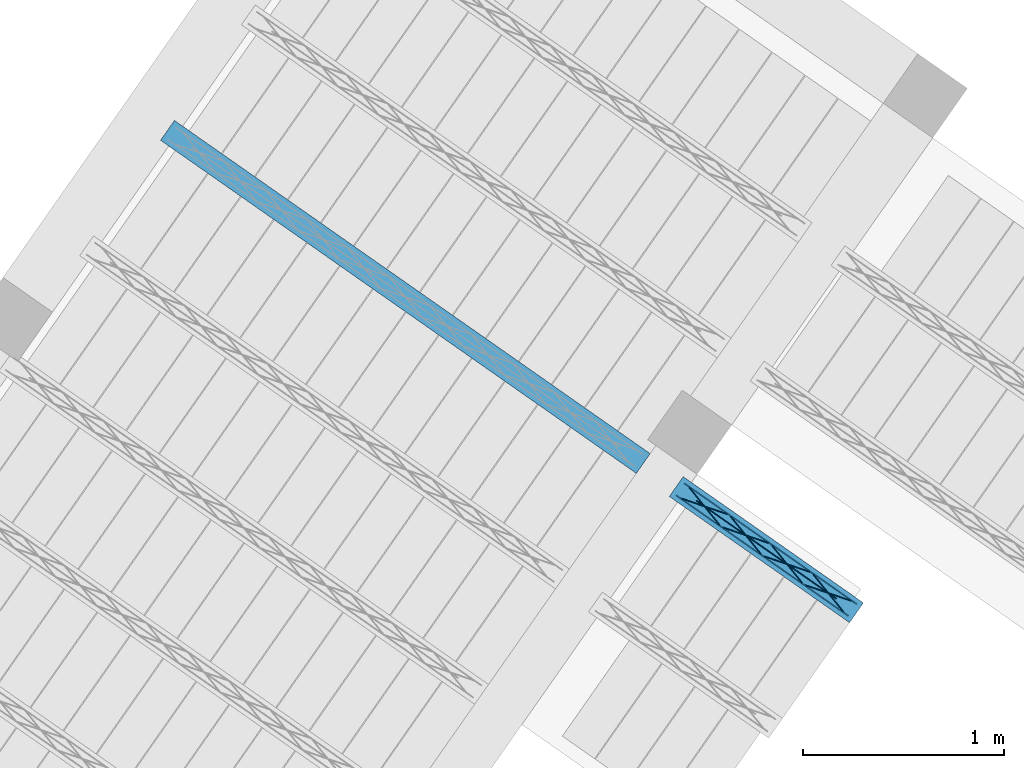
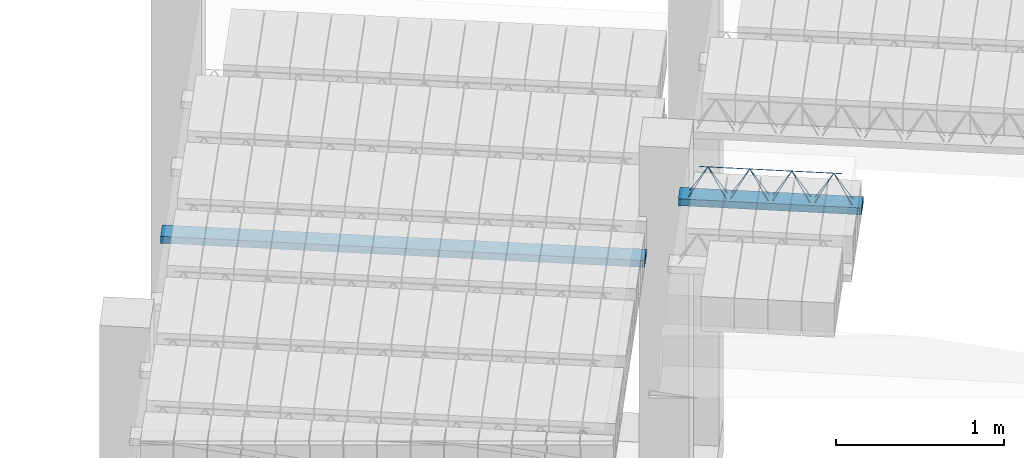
# One storey, part 36 of 80: 3 beams, 1 member.
"""IFC2X3 building model written with IfcOpenShell, lengths in metres."""

from ifc_helpers import new_model, entity, si_unit, converted_unit, derived_unit, direction, frame, frame_2d, origin, origin_2d_with_axis, place, context, subcontext, project, spatial, rectangle, circle, extrude, material, type_object, element, save


model = new_model("IFC2X3")

# Units and contexts
model_context = context("Model", 3, precision=1e-05, world=origin(), true_north=direction((6.123031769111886e-17, 1.0)))
body_context = subcontext(model_context, "Body", "Model", "MODEL_VIEW")
ifc_project = project(units=[si_unit("LENGTHUNIT", "METRE"), si_unit("AREAUNIT", "SQUARE_METRE"), si_unit("VOLUMEUNIT", "CUBIC_METRE"), converted_unit("PLANEANGLEUNIT", "DEGREE", entity("IfcPlaneAngleMeasure", 0.017453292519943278), si_unit("PLANEANGLEUNIT", "RADIAN"), dimensions=[0, 0, 0, 0, 0, 0, 0]), si_unit("MASSUNIT", "GRAM", prefix="KILO"), derived_unit("MASSDENSITYUNIT", [(si_unit("MASSUNIT", "GRAM", prefix="KILO"), 1), (si_unit("LENGTHUNIT", "METRE"), -3)]), derived_unit("IONCONCENTRATIONUNIT", [(si_unit("MASSUNIT", "GRAM", prefix="KILO"), 1), (si_unit("LENGTHUNIT", "METRE"), -3)]), derived_unit("MOMENTOFINERTIAUNIT", [(si_unit("LENGTHUNIT", "METRE"), 4)]), si_unit("TIMEUNIT", "SECOND"), si_unit("FREQUENCYUNIT", "HERTZ"), si_unit("THERMODYNAMICTEMPERATUREUNIT", "DEGREE_CELSIUS"), derived_unit("THERMALTRANSMITTANCEUNIT", [(si_unit("MASSUNIT", "GRAM", prefix="KILO"), 1), (si_unit("THERMODYNAMICTEMPERATUREUNIT", "KELVIN"), -1), (si_unit("TIMEUNIT", "SECOND"), -3)]), derived_unit("THERMALCONDUCTANCEUNIT", [(si_unit("MASSUNIT", "GRAM", prefix="KILO"), 1), (si_unit("THERMODYNAMICTEMPERATUREUNIT", "KELVIN"), -1), (si_unit("TIMEUNIT", "SECOND"), -3), (si_unit("LENGTHUNIT", "METRE"), 1)]), derived_unit("VOLUMETRICFLOWRATEUNIT", [(si_unit("LENGTHUNIT", "METRE", prefix="DECI"), 3), (si_unit("TIMEUNIT", "SECOND"), -1)]), derived_unit("MASSFLOWRATEUNIT", [(si_unit("MASSUNIT", "GRAM", prefix="KILO"), 1), (si_unit("TIMEUNIT", "SECOND"), -1)]), derived_unit("ROTATIONALFREQUENCYUNIT", [(si_unit("TIMEUNIT", "SECOND"), -1)]), si_unit("ELECTRICCURRENTUNIT", "AMPERE"), si_unit("ELECTRICVOLTAGEUNIT", "VOLT"), si_unit("POWERUNIT", "WATT"), si_unit("FORCEUNIT", "NEWTON", prefix="KILO"), si_unit("ILLUMINANCEUNIT", "LUX"), si_unit("LUMINOUSFLUXUNIT", "LUMEN"), si_unit("LUMINOUSINTENSITYUNIT", "CANDELA"), si_unit("ENERGYUNIT", "JOULE"), derived_unit("USERDEFINED", [(si_unit("MASSUNIT", "GRAM", prefix="KILO"), -1), (si_unit("LENGTHUNIT", "METRE"), -2), (si_unit("TIMEUNIT", "SECOND"), 3), (si_unit("LUMINOUSFLUXUNIT", "LUMEN"), 1)]), derived_unit("USERDEFINED", [(si_unit("MASSUNIT", "GRAM", prefix="KILO"), 1), (si_unit("TIMEUNIT", "SECOND"), -3), (si_unit("LENGTHUNIT", "METRE"), 3), (si_unit("ELECTRICCURRENTUNIT", "AMPERE"), -2)]), derived_unit("SOUNDPOWERUNIT", [(si_unit("MASSUNIT", "GRAM", prefix="KILO"), 1), (si_unit("TIMEUNIT", "SECOND"), -3), (si_unit("LENGTHUNIT", "METRE"), 2)]), derived_unit("SOUNDPRESSUREUNIT", [(si_unit("MASSUNIT", "GRAM", prefix="KILO"), 1), (si_unit("LENGTHUNIT", "METRE"), -1), (si_unit("TIMEUNIT", "SECOND"), -2)]), derived_unit("LINEARVELOCITYUNIT", [(si_unit("LENGTHUNIT", "METRE"), 1), (si_unit("TIMEUNIT", "SECOND"), -1)]), si_unit("PRESSUREUNIT", "PASCAL"), derived_unit("USERDEFINED", [(si_unit("MASSUNIT", "GRAM", prefix="KILO"), 1), (si_unit("LENGTHUNIT", "METRE"), -2), (si_unit("TIMEUNIT", "SECOND"), -2)]), derived_unit("LINEARFORCEUNIT", [(si_unit("MASSUNIT", "GRAM", prefix="KILO"), 1), (si_unit("TIMEUNIT", "SECOND"), -2)]), derived_unit("PLANARFORCEUNIT", [(si_unit("MASSUNIT", "GRAM", prefix="KILO"), 1), (si_unit("LENGTHUNIT", "METRE"), -1), (si_unit("TIMEUNIT", "SECOND"), -2)]), derived_unit("SPECIFICHEATCAPACITYUNIT", [(si_unit("THERMODYNAMICTEMPERATUREUNIT", "KELVIN"), -1), (si_unit("LENGTHUNIT", "METRE"), 2), (si_unit("TIMEUNIT", "SECOND"), -2)]), derived_unit("HEATFLUXDENSITYUNIT", [(si_unit("MASSUNIT", "GRAM", prefix="KILO"), 1), (si_unit("TIMEUNIT", "SECOND"), -3)]), derived_unit("HEATINGVALUEUNIT", [(si_unit("LENGTHUNIT", "METRE"), 2), (si_unit("TIMEUNIT", "SECOND"), -2)]), derived_unit("VAPORPERMEABILITYUNIT", [(si_unit("LENGTHUNIT", "METRE"), -1), (si_unit("TIMEUNIT", "SECOND"), 1)]), derived_unit("DYNAMICVISCOSITYUNIT", [(si_unit("MASSUNIT", "GRAM", prefix="KILO"), 1), (si_unit("TIMEUNIT", "SECOND"), -1), (si_unit("LENGTHUNIT", "METRE"), -1)]), derived_unit("THERMALEXPANSIONCOEFFICIENTUNIT", [(si_unit("THERMODYNAMICTEMPERATUREUNIT", "KELVIN"), -1)]), derived_unit("MODULUSOFELASTICITYUNIT", [(si_unit("MASSUNIT", "GRAM", prefix="KILO"), 1), (si_unit("LENGTHUNIT", "METRE"), -1), (si_unit("TIMEUNIT", "SECOND"), -2)]), derived_unit("ISOTHERMALMOISTURECAPACITYUNIT", [(si_unit("MASSUNIT", "GRAM", prefix="KILO"), -1), (si_unit("LENGTHUNIT", "METRE"), 3)]), derived_unit("MOISTUREDIFFUSIVITYUNIT", [(si_unit("TIMEUNIT", "SECOND"), -1), (si_unit("LENGTHUNIT", "METRE"), 2)]), derived_unit("MASSPERLENGTHUNIT", [(si_unit("MASSUNIT", "GRAM", prefix="KILO"), 1), (si_unit("LENGTHUNIT", "METRE"), -1)]), derived_unit("THERMALRESISTANCEUNIT", [(si_unit("MASSUNIT", "GRAM", prefix="KILO"), -1), (si_unit("TIMEUNIT", "SECOND"), 3), (si_unit("THERMODYNAMICTEMPERATUREUNIT", "KELVIN"), 1)]), derived_unit("ACCELERATIONUNIT", [(si_unit("LENGTHUNIT", "METRE"), 1), (si_unit("TIMEUNIT", "SECOND"), -2)]), derived_unit("ANGULARVELOCITYUNIT", [(si_unit("TIMEUNIT", "SECOND"), -1), (si_unit("PLANEANGLEUNIT", "RADIAN"), 1)]), derived_unit("LINEARSTIFFNESSUNIT", [(si_unit("MASSUNIT", "GRAM", prefix="KILO"), 1), (si_unit("TIMEUNIT", "SECOND"), -2)]), derived_unit("WARPINGCONSTANTUNIT", [(si_unit("LENGTHUNIT", "METRE"), 6)]), derived_unit("LINEARMOMENTUNIT", [(si_unit("MASSUNIT", "GRAM", prefix="KILO"), 1), (si_unit("LENGTHUNIT", "METRE"), 1), (si_unit("TIMEUNIT", "SECOND"), -2)]), derived_unit("TORQUEUNIT", [(si_unit("MASSUNIT", "GRAM", prefix="KILO"), 1), (si_unit("LENGTHUNIT", "METRE"), 2), (si_unit("TIMEUNIT", "SECOND"), -2)])], contexts=[model_context])

# Site, building, storey
site_placement = place(None, origin())
site = spatial("IfcSite", under=ifc_project, at=site_placement, Name="Default", CompositionType="ELEMENT")
building_placement = place(site_placement, origin())
building = spatial("IfcBuilding", under=site, at=building_placement, CompositionType="ELEMENT")
storey_placement = place(building_placement, frame((0.0, 0.0, 95.94)))
storey = spatial("IfcBuildingStorey", under=building, at=storey_placement, Name="PB", CompositionType="ELEMENT", Elevation=95.94)

# Member
member_type = type_object("IfcMemberType", Name="Celosía (Vigueta 2 - Paño 8)", PredefinedType="NOTDEFINED")
member_placement = place(storey_placement, origin())
element("IfcMember", 1, at=member_placement, inside=storey, type_object=member_type, Name="Celosía (Vigueta 2 - Paño 8)", context=body_context, shape_type="SweptSolid", body=[
    extrude(circle(Radius=0.0025, at=origin_2d_with_axis()), frame((5.762189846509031, 7.213832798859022, 3.3049999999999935), z_axis=(0.8191520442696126, -0.5735764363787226, 0.0), x_axis=(-0.5735764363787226, -0.8191520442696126, 0.0)), (0.0, 0.0, 1.0), 1.044734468),
    extrude(circle(Radius=0.0025, at=origin_2d_with_axis()), frame((6.558876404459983, 6.699934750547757, 3.5299999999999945), z_axis=(-0.8191520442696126, 0.5735764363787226, 0.0), x_axis=(-0.5735764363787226, -0.8191520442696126, 0.0)), (0.0, 0.0, 1.0), 0.8499999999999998),
    extrude(circle(Radius=0.0025, at=origin_2d_with_axis()), frame((6.59966405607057, 6.627427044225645, 3.3049999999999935), z_axis=(-0.3145304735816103, 0.389334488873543, 0.8657304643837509), x_axis=(-0.7778747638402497, -0.6284193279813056, 0.0)), (0.0, 0.0, 1.0), 0.2598961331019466),
    extrude(circle(Radius=0.0025, at=origin_2d_with_axis()), frame((6.3948760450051, 6.770821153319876, 3.3049999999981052), z_axis=(0.47343050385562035, -0.1624017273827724, 0.8657304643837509), x_axis=(-0.3244721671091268, -0.9458952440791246, 0.0)), (0.0, 0.0, 1.0), 0.25989613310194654),
    extrude(circle(Radius=0.0025, at=origin_2d_with_axis()), frame((6.3948760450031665, 6.770821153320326, 3.3049999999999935), z_axis=(-0.3145304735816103, 0.389334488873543, 0.8657304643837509), x_axis=(-0.7778747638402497, -0.6284193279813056, 0.0)), (0.0, 0.0, 1.0), 0.2598961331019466),
    extrude(circle(Radius=0.0025, at=origin_2d_with_axis()), frame((6.1900880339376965, 6.914215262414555, 3.3049999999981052), z_axis=(0.47343050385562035, -0.1624017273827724, 0.8657304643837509), x_axis=(-0.3244721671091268, -0.9458952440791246, 0.0)), (0.0, 0.0, 1.0), 0.25989613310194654),
    extrude(circle(Radius=0.0025, at=origin_2d_with_axis()), frame((6.190088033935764, 6.9142152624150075, 3.3049999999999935), z_axis=(-0.3145304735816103, 0.389334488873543, 0.8657304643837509), x_axis=(-0.7778747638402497, -0.6284193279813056, 0.0)), (0.0, 0.0, 1.0), 0.2598961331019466),
    extrude(circle(Radius=0.0025, at=origin_2d_with_axis()), frame((5.985300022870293, 7.057609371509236, 3.3049999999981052), z_axis=(0.47343050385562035, -0.1624017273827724, 0.8657304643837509), x_axis=(-0.3244721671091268, -0.9458952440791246, 0.0)), (0.0, 0.0, 1.0), 0.25989613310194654),
    extrude(circle(Radius=0.0025, at=origin_2d_with_axis()), frame((5.985300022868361, 7.057609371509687, 3.3049999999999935), z_axis=(-0.3145304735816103, 0.389334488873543, 0.8657304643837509), x_axis=(-0.7778747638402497, -0.6284193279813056, 0.0)), (0.0, 0.0, 1.0), 0.2598961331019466),
    extrude(circle(Radius=0.0025, at=origin_2d_with_axis()), frame((5.78051201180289, 7.201003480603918, 3.3049999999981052), z_axis=(0.47343050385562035, -0.1624017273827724, 0.8657304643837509), x_axis=(-0.3244721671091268, -0.9458952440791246, 0.0)), (0.0, 0.0, 1.0), 0.25989613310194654),
    extrude(circle(Radius=0.0025, at=origin_2d_with_axis()), frame((5.803487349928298, 7.272811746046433, 3.3049999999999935), z_axis=(0.8191520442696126, -0.5735764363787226, 0.0), x_axis=(-0.5735764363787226, -0.8191520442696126, 0.0)), (0.0, 0.0, 1.0), 1.044734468),
    extrude(circle(Radius=0.0025, at=origin_2d_with_axis()), frame((6.6409615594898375, 6.686405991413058, 3.3049999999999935), z_axis=(-0.47343050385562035, 0.1624017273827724, 0.8657304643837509), x_axis=(-0.3244721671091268, -0.9458952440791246, 0.0)), (0.0, 0.0, 1.0), 0.25989613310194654),
    extrude(circle(Radius=0.0025, at=origin_2d_with_axis()), frame((6.436173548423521, 6.829800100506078, 3.3049999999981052), z_axis=(0.3145304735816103, -0.389334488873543, 0.8657304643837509), x_axis=(-0.7778747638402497, -0.6284193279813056, 0.0)), (0.0, 0.0, 1.0), 0.2598961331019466),
    extrude(circle(Radius=0.0025, at=origin_2d_with_axis()), frame((6.436173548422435, 6.829800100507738, 3.3049999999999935), z_axis=(-0.47343050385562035, 0.1624017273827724, 0.8657304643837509), x_axis=(-0.3244721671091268, -0.9458952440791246, 0.0)), (0.0, 0.0, 1.0), 0.25989613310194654),
    extrude(circle(Radius=0.0025, at=origin_2d_with_axis()), frame((6.231385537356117, 6.973194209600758, 3.3049999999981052), z_axis=(0.3145304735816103, -0.389334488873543, 0.8657304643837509), x_axis=(-0.7778747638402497, -0.6284193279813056, 0.0)), (0.0, 0.0, 1.0), 0.2598961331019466),
    extrude(circle(Radius=0.0025, at=origin_2d_with_axis()), frame((6.231385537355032, 6.973194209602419, 3.3049999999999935), z_axis=(-0.47343050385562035, 0.1624017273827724, 0.8657304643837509), x_axis=(-0.3244721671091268, -0.9458952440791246, 0.0)), (0.0, 0.0, 1.0), 0.25989613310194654),
    extrude(circle(Radius=0.0025, at=origin_2d_with_axis()), frame((6.026597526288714, 7.116588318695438, 3.3049999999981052), z_axis=(0.3145304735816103, -0.389334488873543, 0.8657304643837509), x_axis=(-0.7778747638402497, -0.6284193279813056, 0.0)), (0.0, 0.0, 1.0), 0.2598961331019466),
    extrude(circle(Radius=0.0025, at=origin_2d_with_axis()), frame((6.026597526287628, 7.1165883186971, 3.3049999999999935), z_axis=(-0.47343050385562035, 0.1624017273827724, 0.8657304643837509), x_axis=(-0.3244721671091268, -0.9458952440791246, 0.0)), (0.0, 0.0, 1.0), 0.25989613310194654),
    extrude(circle(Radius=0.0025, at=origin_2d_with_axis()), frame((5.821809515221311, 7.25998242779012, 3.3049999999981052), z_axis=(0.3145304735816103, -0.389334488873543, 0.8657304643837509), x_axis=(-0.7778747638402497, -0.6284193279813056, 0.0)), (0.0, 0.0, 1.0), 0.2598961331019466),
])

# Beams
beam_type = type_object("IfcBeamType", Name="Vigueta 2 (Paño 8) (Mf = 1.52)", PredefinedType="JOIST")
beam_1_placement = place(storey_placement, origin())
element("IfcBeam", 2, at=beam_1_placement, inside=storey, type_object=beam_type, Name="Vigueta 2 (Paño 8) (Mf = 1.52)", ObjectType="Mf = 1.52", context=body_context, shape_type="SweptSolid", body=[
    extrude(rectangle(XDim=1.0927344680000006, YDim=0.11999999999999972, at=origin_2d_with_axis()), frame((6.210736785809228, 6.943704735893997, 3.2799999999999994), z_axis=(0.0, 0.0, 1.0), x_axis=(0.8191520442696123, -0.5735764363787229, 0.0)), (0.0, 0.0, 1.0), 0.04999999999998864),
    extrude(circle(Radius=0.0025, at=origin_2d_with_axis()), frame((5.762189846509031, 7.213832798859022, 3.3049999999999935), z_axis=(0.8191520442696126, -0.5735764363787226, 0.0), x_axis=(-0.5735764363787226, -0.8191520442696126, 0.0)), (0.0, 0.0, 1.0), 1.044734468),
    extrude(circle(Radius=0.0025, at=origin_2d_with_axis()), frame((6.558876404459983, 6.699934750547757, 3.5299999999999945), z_axis=(-0.8191520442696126, 0.5735764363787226, 0.0), x_axis=(-0.5735764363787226, -0.8191520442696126, 0.0)), (0.0, 0.0, 1.0), 0.8499999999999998),
    extrude(circle(Radius=0.0025, at=origin_2d_with_axis()), frame((6.59966405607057, 6.627427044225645, 3.3049999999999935), z_axis=(-0.3145304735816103, 0.389334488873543, 0.8657304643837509), x_axis=(-0.7778747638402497, -0.6284193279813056, 0.0)), (0.0, 0.0, 1.0), 0.2598961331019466),
    extrude(circle(Radius=0.0025, at=origin_2d_with_axis()), frame((6.3948760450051, 6.770821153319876, 3.3049999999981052), z_axis=(0.47343050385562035, -0.1624017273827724, 0.8657304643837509), x_axis=(-0.3244721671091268, -0.9458952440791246, 0.0)), (0.0, 0.0, 1.0), 0.25989613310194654),
    extrude(circle(Radius=0.0025, at=origin_2d_with_axis()), frame((6.3948760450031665, 6.770821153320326, 3.3049999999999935), z_axis=(-0.3145304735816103, 0.389334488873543, 0.8657304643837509), x_axis=(-0.7778747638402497, -0.6284193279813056, 0.0)), (0.0, 0.0, 1.0), 0.2598961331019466),
    extrude(circle(Radius=0.0025, at=origin_2d_with_axis()), frame((6.1900880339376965, 6.914215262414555, 3.3049999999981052), z_axis=(0.47343050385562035, -0.1624017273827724, 0.8657304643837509), x_axis=(-0.3244721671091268, -0.9458952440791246, 0.0)), (0.0, 0.0, 1.0), 0.25989613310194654),
    extrude(circle(Radius=0.0025, at=origin_2d_with_axis()), frame((6.190088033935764, 6.9142152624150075, 3.3049999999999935), z_axis=(-0.3145304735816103, 0.389334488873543, 0.8657304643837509), x_axis=(-0.7778747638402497, -0.6284193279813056, 0.0)), (0.0, 0.0, 1.0), 0.2598961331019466),
    extrude(circle(Radius=0.0025, at=origin_2d_with_axis()), frame((5.985300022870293, 7.057609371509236, 3.3049999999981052), z_axis=(0.47343050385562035, -0.1624017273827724, 0.8657304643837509), x_axis=(-0.3244721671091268, -0.9458952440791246, 0.0)), (0.0, 0.0, 1.0), 0.25989613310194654),
    extrude(circle(Radius=0.0025, at=origin_2d_with_axis()), frame((5.985300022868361, 7.057609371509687, 3.3049999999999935), z_axis=(-0.3145304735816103, 0.389334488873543, 0.8657304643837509), x_axis=(-0.7778747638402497, -0.6284193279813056, 0.0)), (0.0, 0.0, 1.0), 0.2598961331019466),
    extrude(circle(Radius=0.0025, at=origin_2d_with_axis()), frame((5.78051201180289, 7.201003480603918, 3.3049999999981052), z_axis=(0.47343050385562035, -0.1624017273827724, 0.8657304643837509), x_axis=(-0.3244721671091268, -0.9458952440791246, 0.0)), (0.0, 0.0, 1.0), 0.25989613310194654),
    extrude(circle(Radius=0.0025, at=origin_2d_with_axis()), frame((5.803487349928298, 7.272811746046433, 3.3049999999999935), z_axis=(0.8191520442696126, -0.5735764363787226, 0.0), x_axis=(-0.5735764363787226, -0.8191520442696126, 0.0)), (0.0, 0.0, 1.0), 1.044734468),
    extrude(circle(Radius=0.0025, at=origin_2d_with_axis()), frame((6.6409615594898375, 6.686405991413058, 3.3049999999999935), z_axis=(-0.47343050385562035, 0.1624017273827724, 0.8657304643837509), x_axis=(-0.3244721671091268, -0.9458952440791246, 0.0)), (0.0, 0.0, 1.0), 0.25989613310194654),
    extrude(circle(Radius=0.0025, at=origin_2d_with_axis()), frame((6.436173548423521, 6.829800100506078, 3.3049999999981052), z_axis=(0.3145304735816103, -0.389334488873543, 0.8657304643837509), x_axis=(-0.7778747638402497, -0.6284193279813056, 0.0)), (0.0, 0.0, 1.0), 0.2598961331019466),
    extrude(circle(Radius=0.0025, at=origin_2d_with_axis()), frame((6.436173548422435, 6.829800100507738, 3.3049999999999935), z_axis=(-0.47343050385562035, 0.1624017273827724, 0.8657304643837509), x_axis=(-0.3244721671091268, -0.9458952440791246, 0.0)), (0.0, 0.0, 1.0), 0.25989613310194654),
    extrude(circle(Radius=0.0025, at=origin_2d_with_axis()), frame((6.231385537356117, 6.973194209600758, 3.3049999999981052), z_axis=(0.3145304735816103, -0.389334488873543, 0.8657304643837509), x_axis=(-0.7778747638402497, -0.6284193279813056, 0.0)), (0.0, 0.0, 1.0), 0.2598961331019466),
    extrude(circle(Radius=0.0025, at=origin_2d_with_axis()), frame((6.231385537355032, 6.973194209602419, 3.3049999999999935), z_axis=(-0.47343050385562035, 0.1624017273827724, 0.8657304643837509), x_axis=(-0.3244721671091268, -0.9458952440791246, 0.0)), (0.0, 0.0, 1.0), 0.25989613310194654),
    extrude(circle(Radius=0.0025, at=origin_2d_with_axis()), frame((6.026597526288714, 7.116588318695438, 3.3049999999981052), z_axis=(0.3145304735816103, -0.389334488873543, 0.8657304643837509), x_axis=(-0.7778747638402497, -0.6284193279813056, 0.0)), (0.0, 0.0, 1.0), 0.2598961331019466),
    extrude(circle(Radius=0.0025, at=origin_2d_with_axis()), frame((6.026597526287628, 7.1165883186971, 3.3049999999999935), z_axis=(-0.47343050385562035, 0.1624017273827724, 0.8657304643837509), x_axis=(-0.3244721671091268, -0.9458952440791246, 0.0)), (0.0, 0.0, 1.0), 0.25989613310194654),
    extrude(circle(Radius=0.0025, at=origin_2d_with_axis()), frame((5.821809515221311, 7.25998242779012, 3.3049999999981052), z_axis=(0.3145304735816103, -0.389334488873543, 0.8657304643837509), x_axis=(-0.7778747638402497, -0.6284193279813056, 0.0)), (0.0, 0.0, 1.0), 0.2598961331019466),
])
ifc_material = material(Name="Hormigón armado")
beam_2_placement = place(storey_placement, origin())
element("IfcBeam", 3, at=beam_2_placement, inside=storey, material=ifc_material, Name="237990", context=body_context, shape_type="SweptSolid", body=[
    extrude(rectangle(XDim=0.04999999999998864, YDim=0.11999999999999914, at=frame_2d((1.7324683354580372e-14, 1.1969591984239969e-15), x_axis=(1.0, 0.0))), frame((3.2365933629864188, 9.026222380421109, 2.8450000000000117), z_axis=(0.8191520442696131, -0.5735764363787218, 0.0), x_axis=(0.0, 0.0, -1.0)), (0.0, 0.0, 1.0), 2.8843914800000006),
])
beam_3_placement = place(storey_placement, origin())
element("IfcBeam", 4, at=beam_3_placement, inside=storey, material=ifc_material, Name="238550", context=body_context, shape_type="SweptSolid", body=[
    extrude(rectangle(XDim=0.04999999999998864, YDim=0.11999999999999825, at=frame_2d((0.0, 4.475586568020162e-16), x_axis=(1.0, 0.0))), frame((5.763178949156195, 7.257088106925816, 3.3049999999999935), z_axis=(0.8191520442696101, -0.573576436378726, 0.0), x_axis=(0.0, 0.0, -1.0)), (0.0, 0.0, 1.0), 1.092734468),
])

save(model, "model.ifc")
